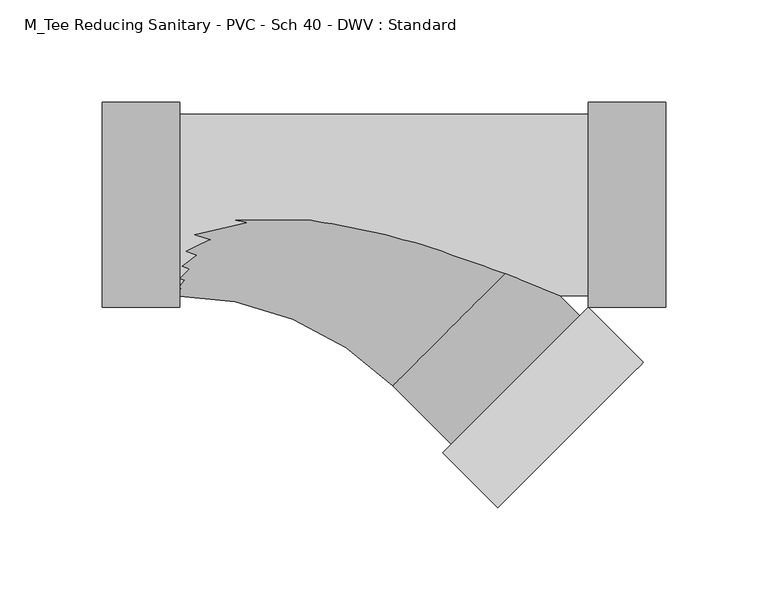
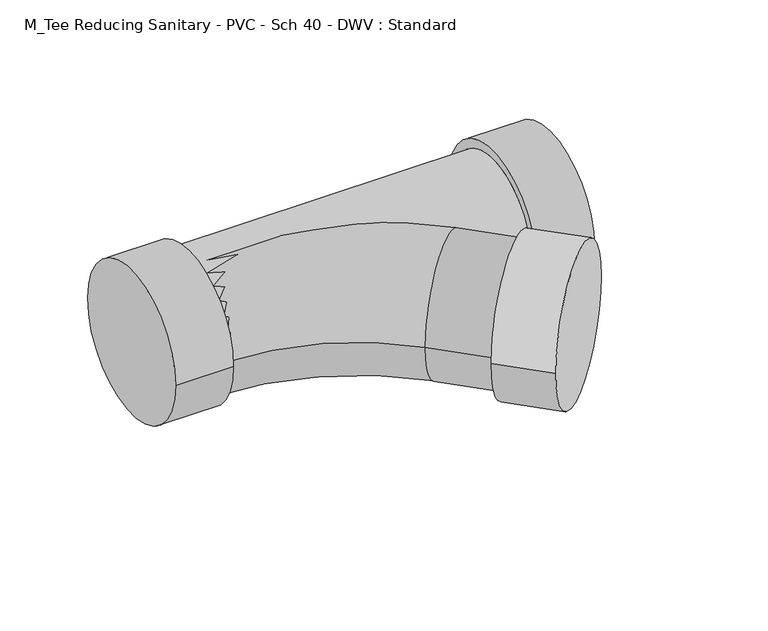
"""IFC4 building model written with IfcOpenShell, lengths in millimetres: pipe fitting geometry, M_Tee Reducing Sanitary - PVC - Sch 40 - DWV : Standard."""

from ifc_helpers import new_model, si_unit, point, frame, origin, place, context, project, spatial, circle_curve, ellipse_curve, trimmed, source, transform, mapped, element, save
from ifc_brep_helpers import plane_surface, cylinder_surface, revolved_surface, advanced_brep


def m_tee_reducing_sanitary_pvc_sch_40_dwv_standard_fa4f56c4(model_context):
    return source(origin(), model_context, "Body", "AdvancedBrep", [
        advanced_brep(
        [(121.3543075, -50.2666, 0.0), (121.3543075, 50.2666, 0.0), (121.3543075, -44.45, 0.0), (121.3543075, 44.45, 0.0), (159.4543075, -50.2666, 0.0), (159.4543075, 50.2666, 0.0), (-78.4787062, 44.45, 0.0), (-78.4787062, -44.45, 0.0), (-116.5787062, -50.2666, 0.0), (-116.5787062, 50.2666, 0.0), (-78.4787062, -50.2666, 0.0), (-78.4787062, 50.2666, 0.0)],
        [
            (0, 1, circle_curve(frame((121.3543075, 0.0, 0.0), z_axis=(-1.0, 0.0, 0.0), x_axis=(0.0, 1.0, 0.0)), 50.2666)),
            (1, 0, circle_curve(frame((121.3543075, 0.0, 0.0), z_axis=(-1.0, 0.0, 0.0), x_axis=(0.0, 1.0, 0.0)), 50.2666)),
            (2, 3, circle_curve(frame((121.3543075, 0.0, 0.0), z_axis=(1.0, 0.0, 0.0), x_axis=(0.0, 0.0, -1.0)), 44.45)),
            (3, 2, circle_curve(frame((121.3543075, 0.0, 0.0), z_axis=(1.0, 0.0, 0.0), x_axis=(0.0, 0.0, 1.0)), 44.45)),
            (4, 5, circle_curve(frame((159.4543075, 0.0, 0.0), z_axis=(1.0, 0.0, 0.0), x_axis=(0.0, 1.0, 0.0)), 50.2666)),
            (5, 4, circle_curve(frame((159.4543075, 0.0, 0.0), z_axis=(1.0, 0.0, 0.0), x_axis=(0.0, 1.0, 0.0)), 50.2666)),
            (0, 4),
            (5, 1),
            (6, 3),
            (2, 7),
            (7, 6, circle_curve(frame((-78.4787062, 0.0, 0.0), z_axis=(1.0, 0.0, 0.0), x_axis=(0.0, 0.0, -1.0)), 44.45)),
            (6, 7, circle_curve(frame((-78.4787062, 0.0, 0.0), z_axis=(1.0, 0.0, 0.0), x_axis=(0.0, 0.0, 1.0)), 44.45)),
            (8, 9, circle_curve(frame((-116.5787062, 0.0, 0.0), z_axis=(-1.0, 0.0, 0.0), x_axis=(0.0, 1.0, 0.0)), 50.2666)),
            (9, 8, circle_curve(frame((-116.5787062, 0.0, 0.0), z_axis=(-1.0, 0.0, 0.0), x_axis=(0.0, 1.0, 0.0)), 50.2666)),
            (10, 11, circle_curve(frame((-78.4787062, 0.0, 0.0), z_axis=(1.0, 0.0, 0.0), x_axis=(0.0, 1.0, 0.0)), 50.2666)),
            (11, 10, circle_curve(frame((-78.4787062, 0.0, 0.0), z_axis=(1.0, 0.0, 0.0), x_axis=(0.0, 1.0, 0.0)), 50.2666)),
            (8, 10),
            (11, 9),
        ],
        [
            plane_surface(frame((121.3543075, 0.0, 0.0), z_axis=(-1.0, 0.0, 0.0), x_axis=(0.0, 0.0, 1.0))),
            plane_surface(frame((159.4543075, 0.0, 0.0), z_axis=(1.0, 0.0, 0.0), x_axis=(0.0, 0.0, 1.0))),
            cylinder_surface(frame((121.3543075, 0.0, 0.0), z_axis=(-1.0, 0.0, 0.0), x_axis=(0.0, 1.0, 0.0)), 50.2666),
            cylinder_surface(frame((-78.4787062, 0.0, 0.0), z_axis=(1.0, 0.0, 0.0), x_axis=(0.0, 0.0, -1.0)), 44.45),
            cylinder_surface(frame((-78.4787062, 0.0, 0.0), z_axis=(1.0, 0.0, 0.0), x_axis=(0.0, 0.0, 1.0)), 44.45),
            plane_surface(frame((-116.5787062, 0.0, 0.0), z_axis=(-1.0, 0.0, 0.0), x_axis=(0.0, 0.0, 1.0))),
            plane_surface(frame((-78.4787062, 0.0, 0.0), z_axis=(1.0, 0.0, 0.0), x_axis=(0.0, 0.0, 1.0))),
            cylinder_surface(frame((-116.5787062, 0.0, 0.0), z_axis=(-1.0, 0.0, 0.0), x_axis=(0.0, 1.0, 0.0)), 50.2666),
        ],
        [
            (0, [[1, 2], [3, 4]]),
            (1, [[5, 6]]),
            (2, [[-1, 7, -6, 8]]),
            (2, [[-2, -8, -5, -7]]),
            (3, [[9, -3, 10, 11]]),
            (4, [[-9, 12, -10, -4]]),
            (5, [[13, 14]]),
            (6, [[15, 16], [-11, -12]]),
            (7, [[-13, 17, -16, 18]]),
            (7, [[-14, -18, -15, -17]]),
        ],
    ),
        advanced_brep(
        [(148.2950758, -77.2073684, 0.0), (77.2073684, -148.2950758, 0.0), (57.2386367, -57.2386367, 44.45), (25.8077402, -88.6695331, 0.0), (54.3795573, -117.2413502, 0.0), (117.2413501, -54.3795573, 0.0), (88.6695331, -25.8077402, 0.0), (57.2386367, -57.2386367, -44.45), (-80.9476562, -44.45, 0.0), (-80.9476562, 44.45, 0.0), (121.3543075, -50.2666, 0.0), (50.2666, -121.3543075, 0.0)],
        [
            (0, 1, circle_curve(frame((112.7512221, -112.7512221, 0.0), z_axis=(0.7071067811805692, -0.7071067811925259, 0.0), x_axis=(-0.7071067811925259, -0.7071067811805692, 0.0)), 50.2666)),
            (1, 0, circle_curve(frame((112.7512221, -112.7512221, 0.0), z_axis=(0.7071067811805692, -0.7071067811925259, 0.0), x_axis=(-0.7071067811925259, -0.7071067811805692, 0.0)), 50.2666)),
            (2, 3, circle_curve(frame((57.2386367, -57.2386367, 0.0), z_axis=(0.7071067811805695, -0.7071067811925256, 0.0), x_axis=(0.7071067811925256, 0.7071067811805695, 0.0)), 44.45)),
            (3, 4),
            (4, 5, circle_curve(frame((85.8104537, -85.8104537, 0.0), z_axis=(-0.7071067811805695, 0.7071067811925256, 0.0), x_axis=(0.7071067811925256, 0.7071067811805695, 0.0)), 44.45)),
            (5, 6),
            (6, 2, circle_curve(frame((57.2386367, -57.2386367, 0.0), z_axis=(0.7071067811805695, -0.7071067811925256, 0.0), x_axis=(0.7071067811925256, 0.7071067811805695, 0.0)), 44.45)),
            (3, 7, circle_curve(frame((57.2386367, -57.2386367, 0.0), z_axis=(0.7071067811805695, -0.7071067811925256, 0.0), x_axis=(0.7071067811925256, 0.7071067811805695, 0.0)), 44.45)),
            (7, 6, circle_curve(frame((57.2386367, -57.2386367, 0.0), z_axis=(0.7071067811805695, -0.7071067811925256, 0.0), x_axis=(0.7071067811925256, 0.7071067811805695, 0.0)), 44.45)),
            (5, 4, circle_curve(frame((85.8104537, -85.8104537, 0.0), z_axis=(-0.7071067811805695, 0.7071067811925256, 0.0), x_axis=(0.7071067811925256, 0.7071067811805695, 0.0)), 44.45)),
            (8, 9, circle_curve(frame((-80.9476562, 0.0, 0.0), z_axis=(-1.0000000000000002, 0.0, 0.0), x_axis=(0.0, 1.0000000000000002, 0.0)), 44.45)),
            (9, 8, circle_curve(frame((-80.9476562, 0.0, 0.0), z_axis=(-1.0000000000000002, 0.0, 0.0), x_axis=(0.0, 1.0000000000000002, 0.0)), 44.45)),
            (8, 3, circle_curve(frame((-80.9476562, -195.4249296, 0.0), z_axis=(0.0, 0.0, -1.0), x_axis=(0.0, 1.0000000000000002, 0.0)), 150.9749296)),
            (6, 9, circle_curve(frame((-80.9476562, -195.4249296, 0.0), z_axis=(0.0, 0.0, 1.0), x_axis=(0.0, 1.0000000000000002, 0.0)), 239.8749296)),
            (10, 11, circle_curve(frame((85.8104537, -85.8104537, 0.0), z_axis=(-0.7071067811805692, 0.7071067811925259, 0.0), x_axis=(-0.7071067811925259, -0.7071067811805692, 0.0)), 50.2666)),
            (11, 10, circle_curve(frame((85.8104537, -85.8104537, 0.0), z_axis=(-0.7071067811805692, 0.7071067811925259, 0.0), x_axis=(-0.7071067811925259, -0.7071067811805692, 0.0)), 50.2666)),
            (0, 10),
            (11, 1),
        ],
        [
            plane_surface(frame((112.7512221, -112.7512221, 0.0), z_axis=(0.7071067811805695, -0.7071067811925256, 0.0), x_axis=(0.0, 0.0, 1.0))),
            cylinder_surface(frame((57.2386367, -57.2386367, 0.0), z_axis=(-0.7071067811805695, 0.7071067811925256, 0.0), x_axis=(0.7071067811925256, 0.7071067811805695, 0.0)), 44.45),
            plane_surface(frame((-80.9476562, 0.0, 0.0), z_axis=(-1.0, 0.0, 0.0), x_axis=(0.0, 0.0, 1.0))),
            revolved_surface(trimmed(ellipse_curve(frame((-80.9476562, 0.0, 0.0), z_axis=(-1.0000000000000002, 0.0, 0.0), x_axis=(0.0, 1.0000000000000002, 0.0)), 44.45, 44.45), [point((-80.9476562, -44.45, 0.0))], [point((-80.9476562, 44.45, 0.0))], True, "CARTESIAN"), (-80.9476562, -195.4249296, 0.0), (0.0, 0.0, -1.0)),
            revolved_surface(trimmed(ellipse_curve(frame((-80.9476562, 0.0, 0.0), z_axis=(-1.0000000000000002, 0.0, 0.0), x_axis=(0.0, 1.0000000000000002, 0.0)), 44.45, 44.45), [point((-80.9476562, 44.45, 0.0))], [point((-80.9476562, -44.45, 0.0))], True, "CARTESIAN"), (-80.9476562, -195.4249296, 0.0), (0.0, 0.0, -1.0)),
            plane_surface(frame((85.8104537, -85.8104537, 0.0), z_axis=(-0.7071067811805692, 0.7071067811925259, 0.0), x_axis=(0.0, 0.0, 1.0))),
            cylinder_surface(frame((112.7512221, -112.7512221, 0.0), z_axis=(0.7071067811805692, -0.7071067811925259, 0.0), x_axis=(-0.7071067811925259, -0.7071067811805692, 0.0)), 50.2666),
        ],
        [
            (0, [[1, 2]]),
            (1, [[3, 4, 5, 6, 7]]),
            (1, [[8, 9, -6, 10, -4]]),
            (2, [[11, 12]]),
            (3, [[-11, 13, -3, -7, 14]]),
            (4, [[-12, -14, -9, -8, -13]]),
            (5, [[15, 16], [-5, -10]]),
            (6, [[-1, 17, -16, 18]]),
            (6, [[-2, -18, -15, -17]]),
        ],
    ),
    ])


if __name__ == "__main__":
    model = new_model("IFC4")
    model_context = context("Model", 3, world=origin())
    ifc_project = project(units=[si_unit("LENGTHUNIT", "METRE", prefix="MILLI")], contexts=[model_context])
    site = spatial("IfcSite", under=ifc_project)
    building = spatial("IfcBuilding", under=site)
    placement = place(None, origin())
    m_tee_reducing_sanitary_pvc_sch_40_dwv_standard_shape = m_tee_reducing_sanitary_pvc_sch_40_dwv_standard_fa4f56c4(model_context)
    element("IfcPipeFitting", 1, ObjectType="M_Tee Reducing Sanitary - PVC - Sch 40 - DWV : Standard", at=placement, inside=building, context=model_context, shape_type="MappedRepresentation", body=[
        mapped(m_tee_reducing_sanitary_pvc_sch_40_dwv_standard_shape, transform((0.0, 0.0, 0.0), x_axis=(1.0, 0.0, 0.0), y_axis=(0.0, 1.0, 0.0), z_axis=(0.0, 0.0, 1.0))),
    ])
    save(model, "model.ifc")
